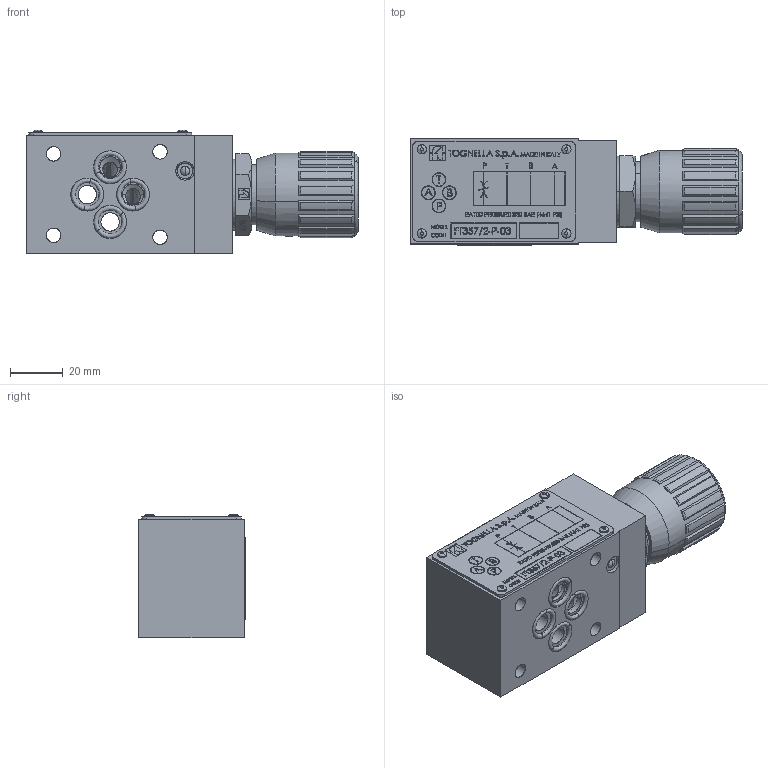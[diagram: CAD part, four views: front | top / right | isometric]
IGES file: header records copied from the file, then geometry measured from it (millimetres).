
Start section: SolidWorks IGES file using analytic representation for surfaces
Global section: file name: C:\Users\user\Desktop\FT357-2\FT357-2-P-03.IGS; native system: SolidWorks 2014; preprocessor: SolidWorks 2014; author: user; date: 140616.160533; units: millimetre
Bounding box: 126.3 x 40.38 x 46.96 mm (x, y, z)
Surface area: 50949.4 mm2 (no closed solid volume)
Topology: 0 solids, 0 shells, 2003 faces, 22107 edges, 22091 vertices
Faces by surface type: bspline 1653, revolution 350
